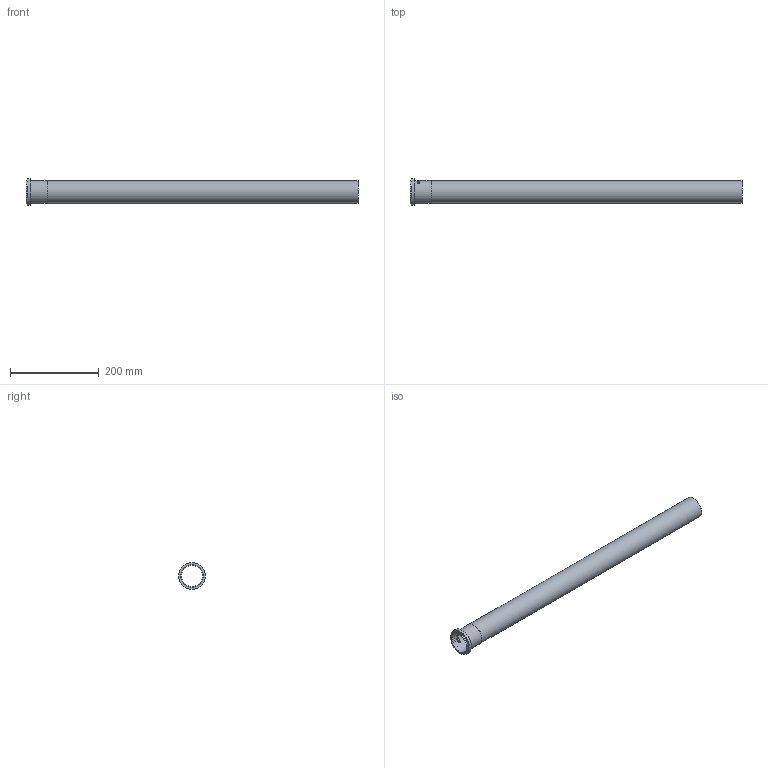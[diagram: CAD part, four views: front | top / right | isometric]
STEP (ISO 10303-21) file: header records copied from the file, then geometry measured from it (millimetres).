
FILE_DESCRIPTION((''),'2;1');
FILE_NAME('I:\WATTS\3D_CAD\3D_CAD_Models\Blucher_Drains\P_StraightPipe\WebsiteFiles\3D\STEP\P2-2.5-316.stp','2009-12-02T13:27:40',('menesek'),(''),'Autodesk Inventor 2010','Autodesk Inventor 2010','');
FILE_SCHEMA(('AUTOMOTIVE_DESIGN { 1 0 10303 214 1 1 1 1 }'));
Length unit declared in the file: inch
Products named in the file (1): P2-2.5-316
Bounding box: 750 x 60.96 x 60.96 mm (x, y, z)
Volume: 125877.2 mm3; surface area: 233600.6 mm2
Topology: 1 solids, 1 shells, 109 faces, 285 edges, 190 vertices
Faces by surface type: plane 59, bspline 34, cylinder 16
Full cylindrical faces by diameter (mm): 48.006 x1, 50.038 x1, 50.8 x2, 60.96 x1
Entity records: 13765 total; most frequent: CARTESIAN_POINT 11387, ORIENTED_EDGE 548, DIRECTION 356, EDGE_CURVE 274, VERTEX_POINT 186, EDGE_LOOP 128, AXIS2_PLACEMENT_3D 120, VECTOR 116
